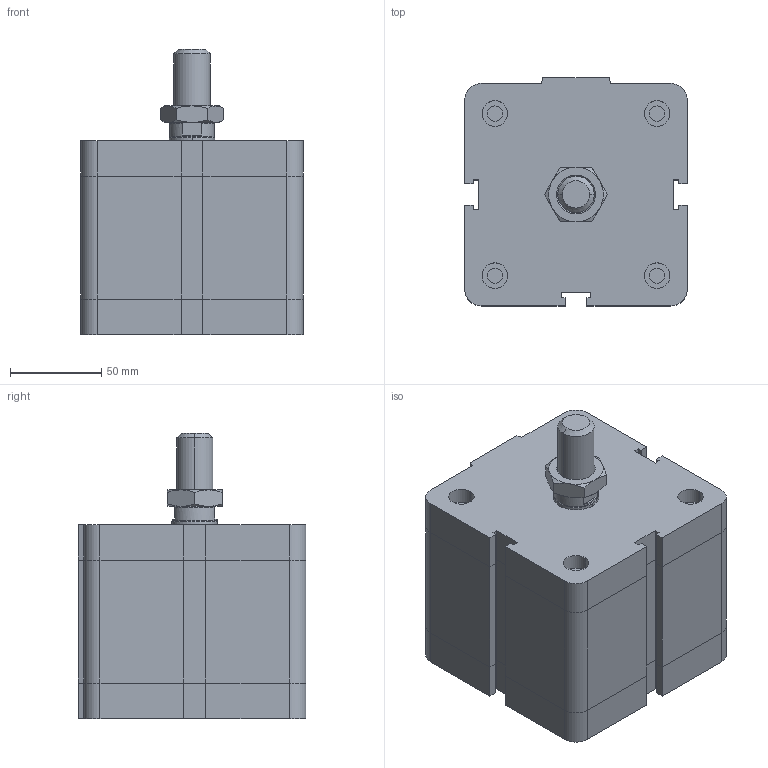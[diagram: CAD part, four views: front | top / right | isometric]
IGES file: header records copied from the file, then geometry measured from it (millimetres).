
Global section: file name: No Iges File Name specified; native system: Autodesk Inventor 2009; preprocessor: AutoDesk Inventor Iges Exporter R2009; author: rivolro1; date: 20081219.160948; units: millimetre
Bounding box: 122 x 125 x 156.5 mm (x, y, z)
Volume: 1558979.3 mm3; surface area: 110395.6 mm2
Topology: 3 solids, 3 shells, 216 faces, 472 edges, 282 vertices
Faces by surface type: plane 121, bspline 37, cylinder 20, cone 20, revolution 18
